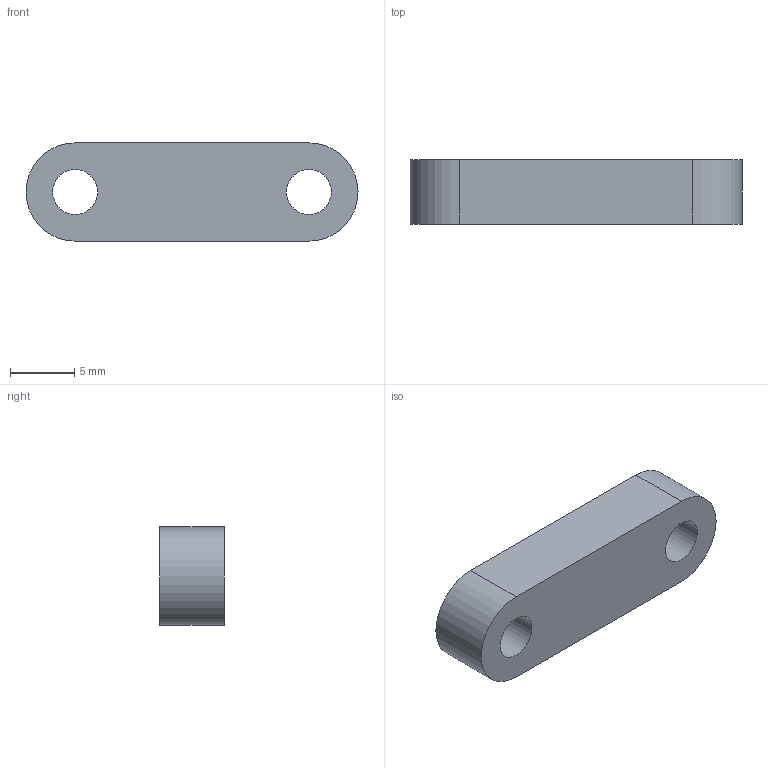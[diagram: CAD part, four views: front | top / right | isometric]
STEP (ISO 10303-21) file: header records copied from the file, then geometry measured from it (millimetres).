
FILE_DESCRIPTION(/* description */ (''),/* implementation_level */ '2;1');
FILE_NAME(/* name */ 'Charger Tab.step',/* time_stamp */ '2026-03-03T19:24:40-05:00',/* author */ (''),/* organization */ (''),/* preprocessor_version */ 'ST-DEVELOPER v20.1',/* originating_system */ 'Autodesk Translation Framework v14.24.0.0',/* authorisation */ '');
FILE_SCHEMA (('AUTOMOTIVE_DESIGN { 1 0 10303 214 3 1 1 }'));
Length unit declared in the file: millimetre
Products named in the file (1): 2026-03-03-19-24-40-073
Bounding box: 25.84 x 5 x 7.65 mm (x, y, z)
Volume: 829.2 mm3; surface area: 743.7 mm2
Topology: 1 solids, 1 shells, 8 faces, 18 edges, 12 vertices
Faces by surface type: cylinder 4, plane 4
Full cylindrical faces by diameter (mm): 3.5 x2
Entity records: 271 total; most frequent: DIRECTION 44, CARTESIAN_POINT 39, ORIENTED_EDGE 36, EDGE_CURVE 18, AXIS2_PLACEMENT_3D 17, EDGE_LOOP 12, VERTEX_POINT 12, LINE 10
